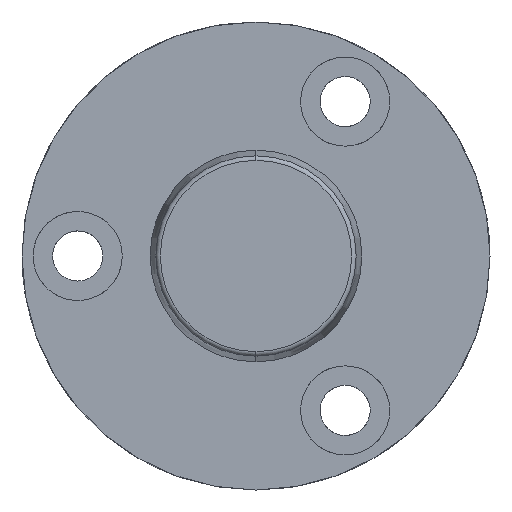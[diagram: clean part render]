
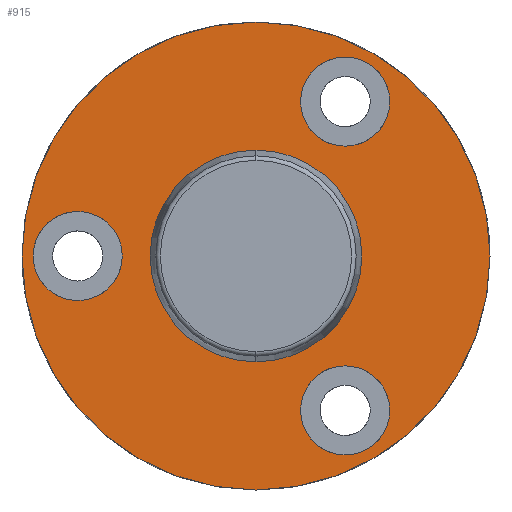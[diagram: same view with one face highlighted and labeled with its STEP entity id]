
A CAD part, left-side view. The second image highlights one B-rep face of the part: STEP entity #915.
In plain terms, the highlighted planar face has unit normal (-1, 0, 0).
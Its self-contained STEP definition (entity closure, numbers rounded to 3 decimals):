
#429=CARTESIAN_POINT('Vertex',(-8.,0.,-21.)) ;
#432=CARTESIAN_POINT('Axis2P3D Location',(-8.,0.,0.)) ;
#436=CARTESIAN_POINT('Vertex',(-8.,21.,0.)) ;
#439=CARTESIAN_POINT('Axis2P3D Location',(-8.,0.,0.)) ;
#443=CARTESIAN_POINT('Vertex',(-8.,0.,21.)) ;
#465=CARTESIAN_POINT('Axis2P3D Location',(-8.,0.,0.)) ;
#469=CARTESIAN_POINT('Vertex',(-8.,-21.,0.)) ;
#472=CARTESIAN_POINT('Axis2P3D Location',(-8.,0.,0.)) ;
#768=CARTESIAN_POINT('Axis2P3D Location',(-8.,8.,0.)) ;
#779=CARTESIAN_POINT('Axis2P3D Location',(-8.,16.,0.)) ;
#783=CARTESIAN_POINT('Vertex',(-8.,16.,4.)) ;
#785=CARTESIAN_POINT('Vertex',(-8.,20.,0.)) ;
#788=CARTESIAN_POINT('Axis2P3D Location',(-8.,16.,0.)) ;
#792=CARTESIAN_POINT('Vertex',(-8.,12.,0.)) ;
#795=CARTESIAN_POINT('Axis2P3D Location',(-8.,16.,0.)) ;
#799=CARTESIAN_POINT('Vertex',(-8.,16.,-4.)) ;
#802=CARTESIAN_POINT('Axis2P3D Location',(-8.,16.,0.)) ;
#813=CARTESIAN_POINT('Axis2P3D Location',(-8.,-8.,13.856)) ;
#817=CARTESIAN_POINT('Vertex',(-8.,-4.,13.856)) ;
#819=CARTESIAN_POINT('Vertex',(-8.,-8.,17.856)) ;
#822=CARTESIAN_POINT('Axis2P3D Location',(-8.,-8.,13.856)) ;
#826=CARTESIAN_POINT('Vertex',(-8.,-12.,13.856)) ;
#829=CARTESIAN_POINT('Axis2P3D Location',(-8.,-8.,13.856)) ;
#833=CARTESIAN_POINT('Vertex',(-8.,-8.,9.856)) ;
#836=CARTESIAN_POINT('Axis2P3D Location',(-8.,-8.,13.856)) ;
#847=CARTESIAN_POINT('Axis2P3D Location',(-8.,-8.,-13.856)) ;
#851=CARTESIAN_POINT('Vertex',(-8.,-4.,-13.856)) ;
#853=CARTESIAN_POINT('Vertex',(-8.,-8.,-9.856)) ;
#856=CARTESIAN_POINT('Axis2P3D Location',(-8.,-8.,-13.856)) ;
#860=CARTESIAN_POINT('Vertex',(-8.,-12.,-13.856)) ;
#863=CARTESIAN_POINT('Axis2P3D Location',(-8.,-8.,-13.856)) ;
#867=CARTESIAN_POINT('Vertex',(-8.,-8.,-17.856)) ;
#870=CARTESIAN_POINT('Axis2P3D Location',(-8.,-8.,-13.856)) ;
#881=CARTESIAN_POINT('Axis2P3D Location',(-8.,0.,0.)) ;
#885=CARTESIAN_POINT('Vertex',(-8.,8.,0.)) ;
#887=CARTESIAN_POINT('Vertex',(-8.,0.,8.)) ;
#890=CARTESIAN_POINT('Axis2P3D Location',(-8.,0.,0.)) ;
#894=CARTESIAN_POINT('Vertex',(-8.,-8.,0.)) ;
#897=CARTESIAN_POINT('Axis2P3D Location',(-8.,0.,0.)) ;
#901=CARTESIAN_POINT('Vertex',(-8.,0.,-8.)) ;
#904=CARTESIAN_POINT('Axis2P3D Location',(-8.,0.,0.)) ;
#433=DIRECTION('Axis2P3D Direction',(-1.,-0.,-0.)) ;
#440=DIRECTION('Axis2P3D Direction',(-1.,-0.,-0.)) ;
#466=DIRECTION('Axis2P3D Direction',(-1.,-0.,-0.)) ;
#473=DIRECTION('Axis2P3D Direction',(-1.,-0.,-0.)) ;
#769=DIRECTION('Axis2P3D Direction',(1.,0.,-0.)) ;
#770=DIRECTION('Axis2P3D XDirection',(-0.,0.,-1.)) ;
#780=DIRECTION('Axis2P3D Direction',(1.,0.,-0.)) ;
#789=DIRECTION('Axis2P3D Direction',(1.,0.,-0.)) ;
#796=DIRECTION('Axis2P3D Direction',(1.,0.,-0.)) ;
#803=DIRECTION('Axis2P3D Direction',(1.,0.,-0.)) ;
#814=DIRECTION('Axis2P3D Direction',(1.,0.,-0.)) ;
#823=DIRECTION('Axis2P3D Direction',(1.,0.,-0.)) ;
#830=DIRECTION('Axis2P3D Direction',(1.,0.,-0.)) ;
#837=DIRECTION('Axis2P3D Direction',(1.,0.,-0.)) ;
#848=DIRECTION('Axis2P3D Direction',(1.,0.,-0.)) ;
#857=DIRECTION('Axis2P3D Direction',(1.,0.,-0.)) ;
#864=DIRECTION('Axis2P3D Direction',(1.,0.,-0.)) ;
#871=DIRECTION('Axis2P3D Direction',(1.,0.,-0.)) ;
#882=DIRECTION('Axis2P3D Direction',(1.,0.,-0.)) ;
#891=DIRECTION('Axis2P3D Direction',(1.,0.,-0.)) ;
#898=DIRECTION('Axis2P3D Direction',(1.,0.,-0.)) ;
#905=DIRECTION('Axis2P3D Direction',(1.,0.,-0.)) ;
#434=AXIS2_PLACEMENT_3D('Circle Axis2P3D',#432,#433,$) ;
#441=AXIS2_PLACEMENT_3D('Circle Axis2P3D',#439,#440,$) ;
#467=AXIS2_PLACEMENT_3D('Circle Axis2P3D',#465,#466,$) ;
#474=AXIS2_PLACEMENT_3D('Circle Axis2P3D',#472,#473,$) ;
#771=AXIS2_PLACEMENT_3D('Plane Axis2P3D',#768,#769,#770) ;
#781=AXIS2_PLACEMENT_3D('Circle Axis2P3D',#779,#780,$) ;
#790=AXIS2_PLACEMENT_3D('Circle Axis2P3D',#788,#789,$) ;
#797=AXIS2_PLACEMENT_3D('Circle Axis2P3D',#795,#796,$) ;
#804=AXIS2_PLACEMENT_3D('Circle Axis2P3D',#802,#803,$) ;
#815=AXIS2_PLACEMENT_3D('Circle Axis2P3D',#813,#814,$) ;
#824=AXIS2_PLACEMENT_3D('Circle Axis2P3D',#822,#823,$) ;
#831=AXIS2_PLACEMENT_3D('Circle Axis2P3D',#829,#830,$) ;
#838=AXIS2_PLACEMENT_3D('Circle Axis2P3D',#836,#837,$) ;
#849=AXIS2_PLACEMENT_3D('Circle Axis2P3D',#847,#848,$) ;
#858=AXIS2_PLACEMENT_3D('Circle Axis2P3D',#856,#857,$) ;
#865=AXIS2_PLACEMENT_3D('Circle Axis2P3D',#863,#864,$) ;
#872=AXIS2_PLACEMENT_3D('Circle Axis2P3D',#870,#871,$) ;
#883=AXIS2_PLACEMENT_3D('Circle Axis2P3D',#881,#882,$) ;
#892=AXIS2_PLACEMENT_3D('Circle Axis2P3D',#890,#891,$) ;
#899=AXIS2_PLACEMENT_3D('Circle Axis2P3D',#897,#898,$) ;
#906=AXIS2_PLACEMENT_3D('Circle Axis2P3D',#904,#905,$) ;
#774=ORIENTED_EDGE('',*,*,#438,.F.) ;
#775=ORIENTED_EDGE('',*,*,#476,.F.) ;
#776=ORIENTED_EDGE('',*,*,#471,.F.) ;
#777=ORIENTED_EDGE('',*,*,#445,.F.) ;
#808=ORIENTED_EDGE('',*,*,#787,.F.) ;
#809=ORIENTED_EDGE('',*,*,#794,.F.) ;
#810=ORIENTED_EDGE('',*,*,#801,.F.) ;
#811=ORIENTED_EDGE('',*,*,#806,.F.) ;
#842=ORIENTED_EDGE('',*,*,#821,.T.) ;
#843=ORIENTED_EDGE('',*,*,#828,.T.) ;
#844=ORIENTED_EDGE('',*,*,#835,.T.) ;
#845=ORIENTED_EDGE('',*,*,#840,.T.) ;
#876=ORIENTED_EDGE('',*,*,#855,.T.) ;
#877=ORIENTED_EDGE('',*,*,#862,.T.) ;
#878=ORIENTED_EDGE('',*,*,#869,.T.) ;
#879=ORIENTED_EDGE('',*,*,#874,.T.) ;
#910=ORIENTED_EDGE('',*,*,#889,.T.) ;
#911=ORIENTED_EDGE('',*,*,#896,.T.) ;
#912=ORIENTED_EDGE('',*,*,#903,.T.) ;
#913=ORIENTED_EDGE('',*,*,#908,.T.) ;
#812=FACE_BOUND('',#807,.T.) ;
#846=FACE_BOUND('',#841,.T.) ;
#880=FACE_BOUND('',#875,.T.) ;
#914=FACE_BOUND('',#909,.T.) ;
#915=ADVANCED_FACE('721-19x160',(#778,#812,#846,#880,#914),#772,.F.) ;
#435=CIRCLE('generated circle',#434,21.) ;
#442=CIRCLE('generated circle',#441,21.) ;
#468=CIRCLE('generated circle',#467,21.) ;
#475=CIRCLE('generated circle',#474,21.) ;
#782=CIRCLE('generated circle',#781,4.) ;
#791=CIRCLE('generated circle',#790,4.) ;
#798=CIRCLE('generated circle',#797,4.) ;
#805=CIRCLE('generated circle',#804,4.) ;
#816=CIRCLE('generated circle',#815,4.) ;
#825=CIRCLE('generated circle',#824,4.) ;
#832=CIRCLE('generated circle',#831,4.) ;
#839=CIRCLE('generated circle',#838,4.) ;
#850=CIRCLE('generated circle',#849,4.) ;
#859=CIRCLE('generated circle',#858,4.) ;
#866=CIRCLE('generated circle',#865,4.) ;
#873=CIRCLE('generated circle',#872,4.) ;
#884=CIRCLE('generated circle',#883,8.) ;
#893=CIRCLE('generated circle',#892,8.) ;
#900=CIRCLE('generated circle',#899,8.) ;
#907=CIRCLE('generated circle',#906,8.) ;
#438=EDGE_CURVE('',#430,#437,#435,.F.) ;
#445=EDGE_CURVE('',#437,#444,#442,.F.) ;
#471=EDGE_CURVE('',#444,#470,#468,.F.) ;
#476=EDGE_CURVE('',#470,#430,#475,.F.) ;
#787=EDGE_CURVE('',#784,#786,#782,.F.) ;
#794=EDGE_CURVE('',#793,#784,#791,.F.) ;
#801=EDGE_CURVE('',#800,#793,#798,.F.) ;
#806=EDGE_CURVE('',#786,#800,#805,.F.) ;
#821=EDGE_CURVE('',#818,#820,#816,.T.) ;
#828=EDGE_CURVE('',#820,#827,#825,.T.) ;
#835=EDGE_CURVE('',#827,#834,#832,.T.) ;
#840=EDGE_CURVE('',#834,#818,#839,.T.) ;
#855=EDGE_CURVE('',#852,#854,#850,.T.) ;
#862=EDGE_CURVE('',#854,#861,#859,.T.) ;
#869=EDGE_CURVE('',#861,#868,#866,.T.) ;
#874=EDGE_CURVE('',#868,#852,#873,.T.) ;
#889=EDGE_CURVE('',#886,#888,#884,.T.) ;
#896=EDGE_CURVE('',#888,#895,#893,.T.) ;
#903=EDGE_CURVE('',#895,#902,#900,.T.) ;
#908=EDGE_CURVE('',#902,#886,#907,.T.) ;
#773=EDGE_LOOP('',(#774,#775,#776,#777)) ;
#807=EDGE_LOOP('',(#808,#809,#810,#811)) ;
#841=EDGE_LOOP('',(#842,#843,#844,#845)) ;
#875=EDGE_LOOP('',(#876,#877,#878,#879)) ;
#909=EDGE_LOOP('',(#910,#911,#912,#913)) ;
#778=FACE_OUTER_BOUND('',#773,.T.) ;
#772=PLANE('Plane',#771) ;
#430=VERTEX_POINT('',#429) ;
#437=VERTEX_POINT('',#436) ;
#444=VERTEX_POINT('',#443) ;
#470=VERTEX_POINT('',#469) ;
#784=VERTEX_POINT('',#783) ;
#786=VERTEX_POINT('',#785) ;
#793=VERTEX_POINT('',#792) ;
#800=VERTEX_POINT('',#799) ;
#818=VERTEX_POINT('',#817) ;
#820=VERTEX_POINT('',#819) ;
#827=VERTEX_POINT('',#826) ;
#834=VERTEX_POINT('',#833) ;
#852=VERTEX_POINT('',#851) ;
#854=VERTEX_POINT('',#853) ;
#861=VERTEX_POINT('',#860) ;
#868=VERTEX_POINT('',#867) ;
#886=VERTEX_POINT('',#885) ;
#888=VERTEX_POINT('',#887) ;
#895=VERTEX_POINT('',#894) ;
#902=VERTEX_POINT('',#901) ;
